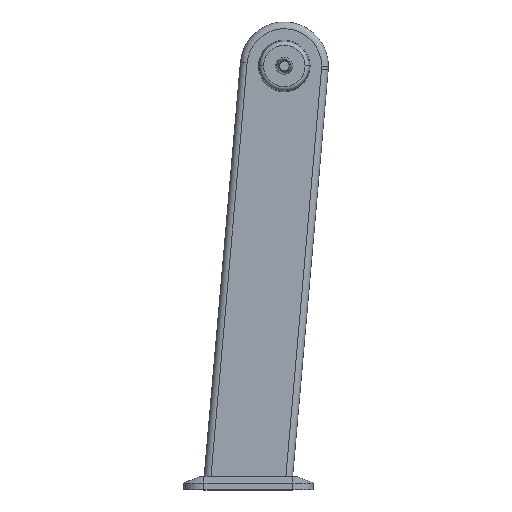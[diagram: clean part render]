
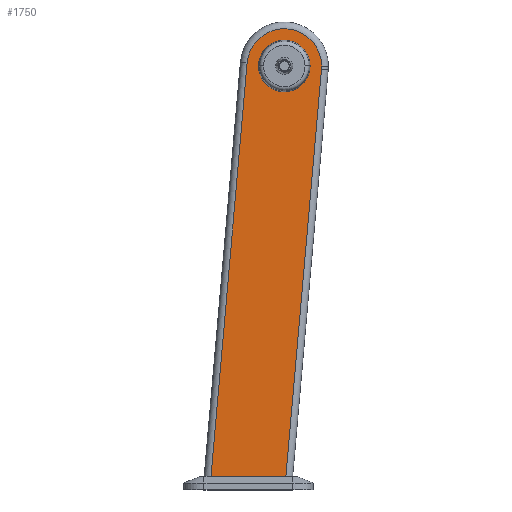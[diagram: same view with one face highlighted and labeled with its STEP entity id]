
A CAD part, top view. The second image highlights one B-rep face of the part: STEP entity #1750.
In plain terms, the highlighted planar face has unit normal (0, 0, 1).
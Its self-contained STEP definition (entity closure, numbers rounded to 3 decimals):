
#73 = VERTEX_POINT ( 'NONE', #3262 ) ;
#93 = CARTESIAN_POINT ( 'NONE',  ( 0., 0., 31.25 ) ) ;
#139 = CARTESIAN_POINT ( 'NONE',  ( 54.791, -4.794, 31.25 ) ) ;
#193 = EDGE_CURVE ( 'NONE', #2022, #1063, #2269, .T. ) ;
#346 = DIRECTION ( 'NONE',  ( 1., 0., 0. ) ) ;
#359 = AXIS2_PLACEMENT_3D ( 'NONE', #2349, #2280, #762 ) ;
#403 = VERTEX_POINT ( 'NONE', #1763 ) ;
#529 = VERTEX_POINT ( 'NONE', #1179 ) ;
#762 = DIRECTION ( 'NONE',  ( 1., 0., 0. ) ) ;
#764 = AXIS2_PLACEMENT_3D ( 'NONE', #2610, #3142, #1611 ) ;
#776 = VERTEX_POINT ( 'NONE', #2714 ) ;
#859 = ORIENTED_EDGE ( 'NONE', *, *, #2747, .T. ) ;
#892 = DIRECTION ( 'NONE',  ( 0.087, 0.996, 0. ) ) ;
#944 = ORIENTED_EDGE ( 'NONE', *, *, #1987, .F. ) ;
#963 = CARTESIAN_POINT ( 'NONE',  ( -109.967, -625.872, 31.25 ) ) ;
#971 = CARTESIAN_POINT ( 'NONE',  ( 0., 0., 31.25 ) ) ;
#999 = VECTOR ( 'NONE', #3252, 1000. ) ;
#1005 = VERTEX_POINT ( 'NONE', #3162 ) ;
#1027 = CARTESIAN_POINT ( 'NONE',  ( 55., 0., 31.25 ) ) ;
#1063 = VERTEX_POINT ( 'NONE', #2434 ) ;
#1077 = CARTESIAN_POINT ( 'NONE',  ( 0., -605., 31.25 ) ) ;
#1175 = LINE ( 'NONE', #139, #2433 ) ;
#1179 = CARTESIAN_POINT ( 'NONE',  ( -38., 0., 31.25 ) ) ;
#1220 = DIRECTION ( 'NONE',  ( 1., 0., 0. ) ) ;
#1235 = EDGE_CURVE ( 'NONE', #776, #529, #3202, .T. ) ;
#1270 = EDGE_CURVE ( 'NONE', #403, #1005, #1175, .T. ) ;
#1278 = CIRCLE ( 'NONE', #359, 38. ) ;
#1291 = ORIENTED_EDGE ( 'NONE', *, *, #1235, .F. ) ;
#1393 = DIRECTION ( 'NONE',  ( 0., 0., 1. ) ) ;
#1518 = ORIENTED_EDGE ( 'NONE', *, *, #3256, .T. ) ;
#1611 = DIRECTION ( 'NONE',  ( 1., 0., 0. ) ) ;
#1618 = ORIENTED_EDGE ( 'NONE', *, *, #193, .T. ) ;
#1656 = LINE ( 'NONE', #963, #999 ) ;
#1670 = FACE_OUTER_BOUND ( 'NONE', #3119, .T. ) ;
#1750 = ADVANCED_FACE ( 'NONE', ( #1670, #2275 ), #2625, .T. ) ;
#1763 = CARTESIAN_POINT ( 'NONE',  ( 2.279, -605., 31.25 ) ) ;
#1832 = ORIENTED_EDGE ( 'NONE', *, *, #1270, .T. ) ;
#1861 = DIRECTION ( 'NONE',  ( 0., 0., 1. ) ) ;
#1898 = EDGE_CURVE ( 'NONE', #1005, #2022, #3149, .T. ) ;
#1987 = EDGE_CURVE ( 'NONE', #529, #776, #1278, .T. ) ;
#2022 = VERTEX_POINT ( 'NONE', #1027 ) ;
#2140 = EDGE_LOOP ( 'NONE', ( #1291, #944 ) ) ;
#2178 = VECTOR ( 'NONE', #2330, 1000. ) ;
#2261 = LINE ( 'NONE', #1077, #2178 ) ;
#2269 = CIRCLE ( 'NONE', #2452, 55. ) ;
#2275 = FACE_BOUND ( 'NONE', #2140, .T. ) ;
#2280 = DIRECTION ( 'NONE',  ( 0., 0., 1. ) ) ;
#2330 = DIRECTION ( 'NONE',  ( 1., 0., 0. ) ) ;
#2349 = CARTESIAN_POINT ( 'NONE',  ( 0., 0., 31.25 ) ) ;
#2433 = VECTOR ( 'NONE', #892, 1000. ) ;
#2434 = CARTESIAN_POINT ( 'NONE',  ( -54.791, 4.794, 31.25 ) ) ;
#2452 = AXIS2_PLACEMENT_3D ( 'NONE', #93, #1861, #346 ) ;
#2481 = AXIS2_PLACEMENT_3D ( 'NONE', #2921, #1393, #3179 ) ;
#2610 = CARTESIAN_POINT ( 'NONE',  ( 0., 0., 31.25 ) ) ;
#2625 = PLANE ( 'NONE',  #764 ) ;
#2714 = CARTESIAN_POINT ( 'NONE',  ( 38., 0., 31.25 ) ) ;
#2740 = DIRECTION ( 'NONE',  ( 0., 0., 1. ) ) ;
#2747 = EDGE_CURVE ( 'NONE', #1063, #73, #1656, .T. ) ;
#2859 = ORIENTED_EDGE ( 'NONE', *, *, #1898, .T. ) ;
#2921 = CARTESIAN_POINT ( 'NONE',  ( 0., 0., 31.25 ) ) ;
#3119 = EDGE_LOOP ( 'NONE', ( #1832, #2859, #1618, #859, #1518 ) ) ;
#3142 = DIRECTION ( 'NONE',  ( 0., 0., 1. ) ) ;
#3148 = AXIS2_PLACEMENT_3D ( 'NONE', #971, #2740, #1220 ) ;
#3149 = CIRCLE ( 'NONE', #3148, 55. ) ;
#3162 = CARTESIAN_POINT ( 'NONE',  ( 54.791, -4.794, 31.25 ) ) ;
#3179 = DIRECTION ( 'NONE',  ( 1., 0., 0. ) ) ;
#3202 = CIRCLE ( 'NONE', #2481, 38. ) ;
#3252 = DIRECTION ( 'NONE',  ( -0.087, -0.996, 0. ) ) ;
#3256 = EDGE_CURVE ( 'NONE', #73, #403, #2261, .T. ) ;
#3262 = CARTESIAN_POINT ( 'NONE',  ( -108.141, -605., 31.25 ) ) ;
